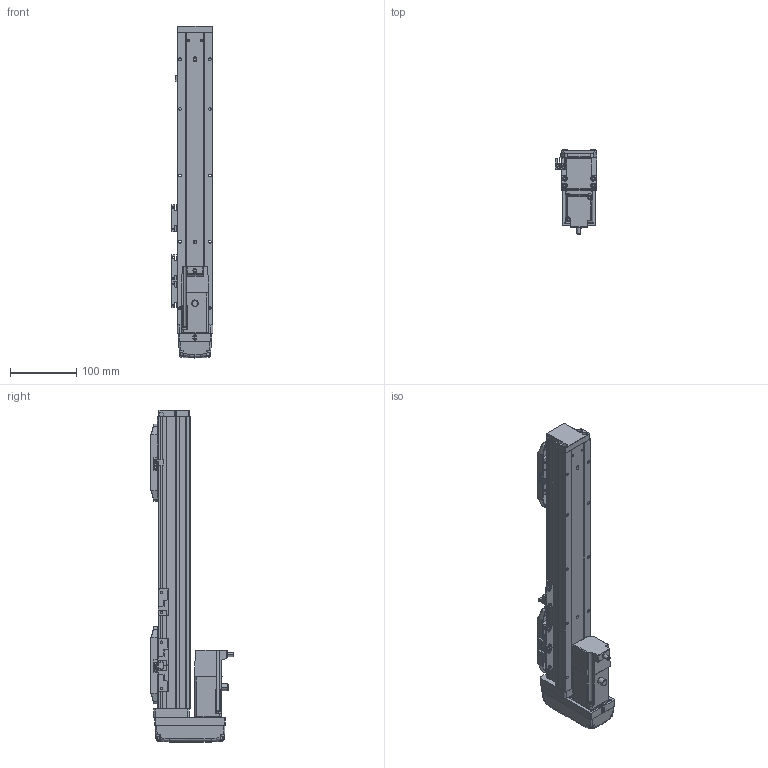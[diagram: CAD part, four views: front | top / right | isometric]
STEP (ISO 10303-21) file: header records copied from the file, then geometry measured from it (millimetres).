
FILE_DESCRIPTION (( 'STEP AP203' ), '1' );
FILE_NAME ('2.STEP', '2020-10-31T07:44:50', ( '' ), ( '' ), 'SwSTEP 2.0', 'SolidWorks 2016', '' );
FILE_SCHEMA (( 'CONFIG_CONTROL_DESIGN' ));
Length unit declared in the file: millimetre
Products named in the file (10): CTH5S-BM-01; CTH5S-BM-T10; CTH5S-BM-03; CTH5S-BM-05; CTH5S-BM-07; CTH5S-BM-菁釱; CTH5S-BM-06; CTH5S-BM-02; 2; CTH5S-BM-HZ
Assembly tree (15 placements, depth 2):
  2
    CTH5S-BM-菁釱
    CTH5S-BM-01
    CTH5S-BM-02
    CTH5S-BM-03
    CTH5S-BM-05  x2
    CTH5S-BM-06  x3
    CTH5S-BM-07  x3
    CTH5S-BM-HZ  x2
    CTH5S-BM-T10
Bounding box: 63 x 125.95 x 499.9 mm (x, y, z)
Volume: 1239710.1 mm3; surface area: 277522.9 mm2
Topology: 41 solids, 41 shells, 2060 faces, 5479 edges, 3490 vertices
Faces by surface type: plane 1023, cylinder 675, cone 244, bspline 110, torus 8
Entity records: 47695 total; most frequent: CARTESIAN_POINT 13720, ORIENTED_EDGE 7018, DIRECTION 6573, EDGE_CURVE 3509, AXIS2_PLACEMENT_3D 2294, VERTEX_POINT 2260, LINE 1985, VECTOR 1985
